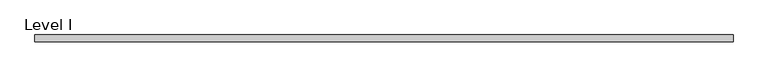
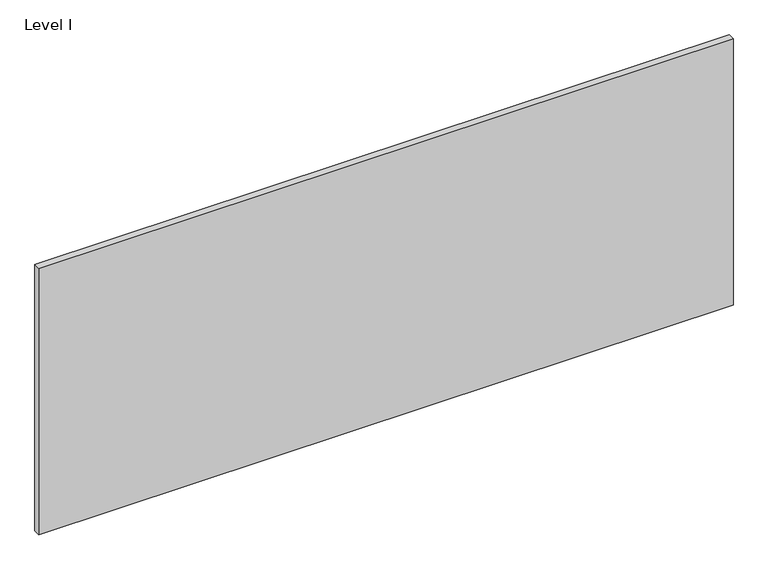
"""IFC4 building model written with IfcOpenShell, lengths in millimetres: proxy geometry, Panel-Fascia-Teknion-Altos-Landscape : Level I."""

from ifc_helpers import new_model, si_unit, frame, origin, place, context, project, spatial, polyline, outline, extrude, source, transform, mapped, element, save


def level_i_5a75796b(model_context):
    return source(origin(), model_context, "Body", "SweptSolid", [
        extrude(outline(polyline([(998.8407125, 9.525), (998.8407125, -9.525), (-998.8407125, -9.525), (-998.8407125, 9.525), (998.8407125, 9.525)])), frame((0.0, 0.0, 3.175), z_axis=(0.0, 0.0, 1.0), x_axis=(1.0, 0.0, 0.0)), (0.0, 0.0, 1.0), 810.768),
    ])


if __name__ == "__main__":
    model = new_model("IFC4")
    model_context = context("Model", 3, world=origin())
    ifc_project = project(units=[si_unit("LENGTHUNIT", "METRE", prefix="MILLI")], contexts=[model_context])
    site = spatial("IfcSite", under=ifc_project)
    building = spatial("IfcBuilding", under=site)
    placement = place(None, origin())
    level_i_shape = level_i_5a75796b(model_context)
    element("IfcBuildingElementProxy", 1, Name="Panel-Fascia-Teknion-Altos-Landscape : Level I", ObjectType="Panel-Fascia-Teknion-Altos-Landscape : Level I", at=placement, inside=building, context=model_context, shape_type="MappedRepresentation", body=[
        mapped(level_i_shape, transform((0.0, 0.0, 0.0), x_axis=(1.0, 0.0, 0.0), y_axis=(0.0, 1.0, 0.0), z_axis=(0.0, 0.0, 1.0))),
    ])
    save(model, "model.ifc")
